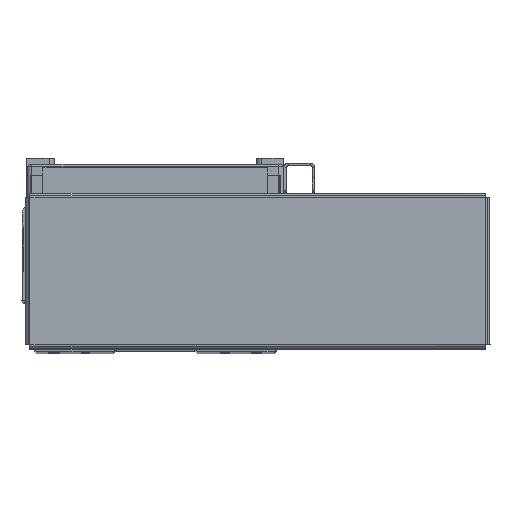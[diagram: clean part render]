
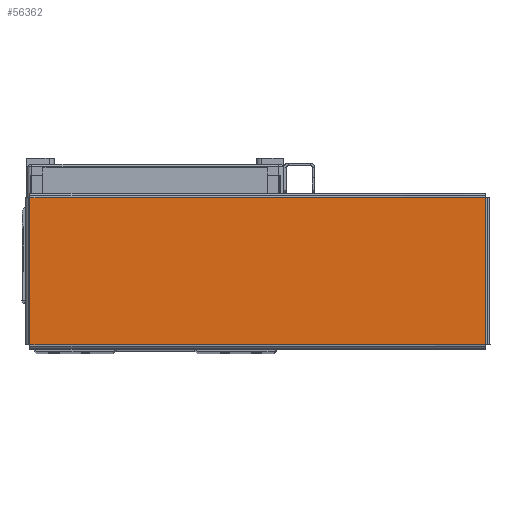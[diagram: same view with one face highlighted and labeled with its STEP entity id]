
A CAD part, top view. The second image highlights one B-rep face of the part: STEP entity #56362.
In plain terms, the highlighted planar face has unit normal (0, 0, 1) as drawn and (0, -1, 0) by its records, which use the part's own axes.
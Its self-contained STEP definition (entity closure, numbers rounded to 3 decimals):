
#4249 = LINE ( 'NONE', #9527, #4250 ) ;
#4250 = VECTOR ( 'NONE', #9516, 1000. ) ;
#4252 = LINE ( 'NONE', #9521, #4254 ) ;
#4254 = VECTOR ( 'NONE', #9513, 1000. ) ;
#4486 = VECTOR ( 'NONE', #9507, 1000. ) ;
#4540 = LINE ( 'NONE', #9511, #4486 ) ;
#7639 = CARTESIAN_POINT ( 'NONE',  ( 92.263, -1., -29.763 ) ) ;
#7653 = CARTESIAN_POINT ( 'NONE',  ( -92.263, -1., 29.763 ) ) ;
#7654 = CARTESIAN_POINT ( 'NONE',  ( -92.263, -1., -29.763 ) ) ;
#7694 = CARTESIAN_POINT ( 'NONE',  ( 92.263, -1., 29.763 ) ) ;
#9507 = DIRECTION ( 'NONE',  ( 0., 0., -1. ) ) ;
#9511 = CARTESIAN_POINT ( 'NONE',  ( -92.263, -1., 29.793 ) ) ;
#9513 = DIRECTION ( 'NONE',  ( -1., 0., 0. ) ) ;
#9516 = DIRECTION ( 'NONE',  ( 1., 0., 0. ) ) ;
#9521 = CARTESIAN_POINT ( 'NONE',  ( 92.293, -1., 29.763 ) ) ;
#9527 = CARTESIAN_POINT ( 'NONE',  ( -92.293, -1., -29.763 ) ) ;
#9678 = DIRECTION ( 'NONE',  ( 0., 0., 1. ) ) ;
#9685 = CARTESIAN_POINT ( 'NONE',  ( 92.263, -1., -29.793 ) ) ;
#10541 = LINE ( 'NONE', #9685, #10542 ) ;
#10542 = VECTOR ( 'NONE', #9678, 1000. ) ;
#27948 = FACE_OUTER_BOUND ( 'NONE', #53586, .T. ) ;
#29491 = AXIS2_PLACEMENT_3D ( 'NONE', #31185, #31158, #31151 ) ;
#31151 = DIRECTION ( 'NONE',  ( 0., 0., 1. ) ) ;
#31158 = DIRECTION ( 'NONE',  ( 0., 1., 0. ) ) ;
#31173 = PLANE ( 'NONE',  #29491 ) ;
#31185 = CARTESIAN_POINT ( 'NONE',  ( 0., -1., 0. ) ) ;
#43610 = VERTEX_POINT ( 'NONE', #7639 ) ;
#43633 = VERTEX_POINT ( 'NONE', #7694 ) ;
#43636 = VERTEX_POINT ( 'NONE', #7653 ) ;
#43641 = VERTEX_POINT ( 'NONE', #7654 ) ;
#44594 = EDGE_CURVE ( 'NONE', #43641, #43610, #4249, .T. ) ;
#44596 = EDGE_CURVE ( 'NONE', #43633, #43636, #4252, .T. ) ;
#44599 = EDGE_CURVE ( 'NONE', #43636, #43641, #4540, .T. ) ;
#44667 = EDGE_CURVE ( 'NONE', #43610, #43633, #10541, .T. ) ;
#53586 = EDGE_LOOP ( 'NONE', ( #54842, #54764, #54753, #54747 ) ) ;
#54747 = ORIENTED_EDGE ( 'NONE', *, *, #44599, .T. ) ;
#54753 = ORIENTED_EDGE ( 'NONE', *, *, #44596, .T. ) ;
#54764 = ORIENTED_EDGE ( 'NONE', *, *, #44667, .T. ) ;
#54842 = ORIENTED_EDGE ( 'NONE', *, *, #44594, .T. ) ;
#56362 = ADVANCED_FACE ( 'NONE', ( #27948 ), #31173, .F. ) ;
